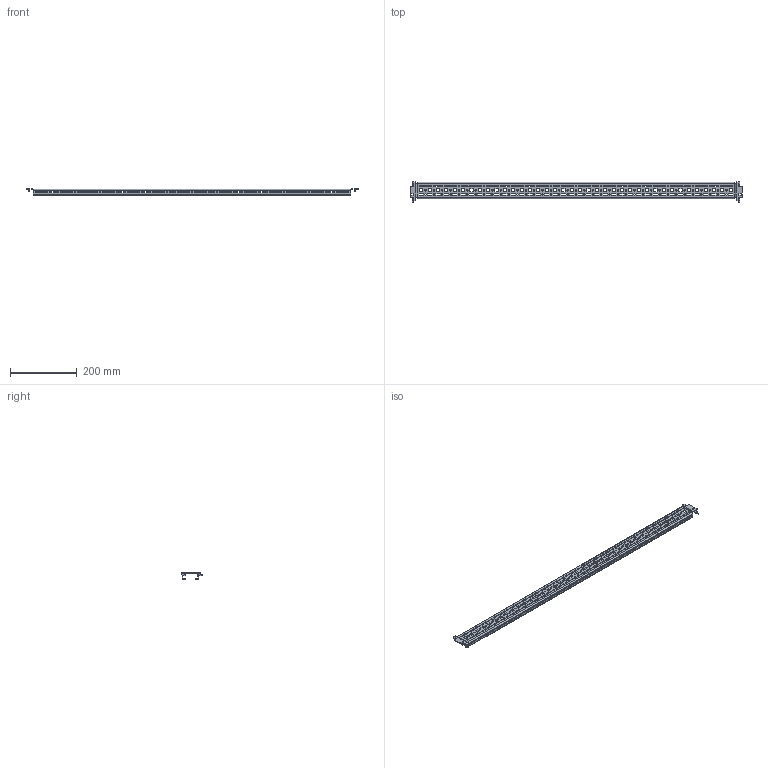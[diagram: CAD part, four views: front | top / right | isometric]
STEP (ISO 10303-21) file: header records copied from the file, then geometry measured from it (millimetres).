
FILE_DESCRIPTION (( 'STEP AP203' ), '1' );
FILE_NAME ('MMD 100.06 Øàññè ñèñòåìíîå.STEP', '2025-05-15T11:45:41', ( '' ), ( '' ), 'SwSTEP 2.0', 'SolidWorks 2019', '' );
FILE_SCHEMA (( 'CONFIG_CONTROL_DESIGN' ));
Length unit declared in the file: millimetre
Products named in the file (1): MMD 100.06 Øàññè ñèñòåìíîå
Bounding box: 992.72 x 60.5 x 20.03 mm (x, y, z)
Volume: 151190.7 mm3; surface area: 173859.6 mm2
Topology: 1 solids, 1 shells, 1306 faces, 3832 edges, 2528 vertices
Faces by surface type: plane 866, cylinder 440
Entity records: 44837 total; most frequent: CARTESIAN_POINT 7735, ORIENTED_EDGE 7664, DIRECTION 7310, EDGE_CURVE 3832, LINE 2936, VECTOR 2936, VERTEX_POINT 2528, AXIS2_PLACEMENT_3D 2187
